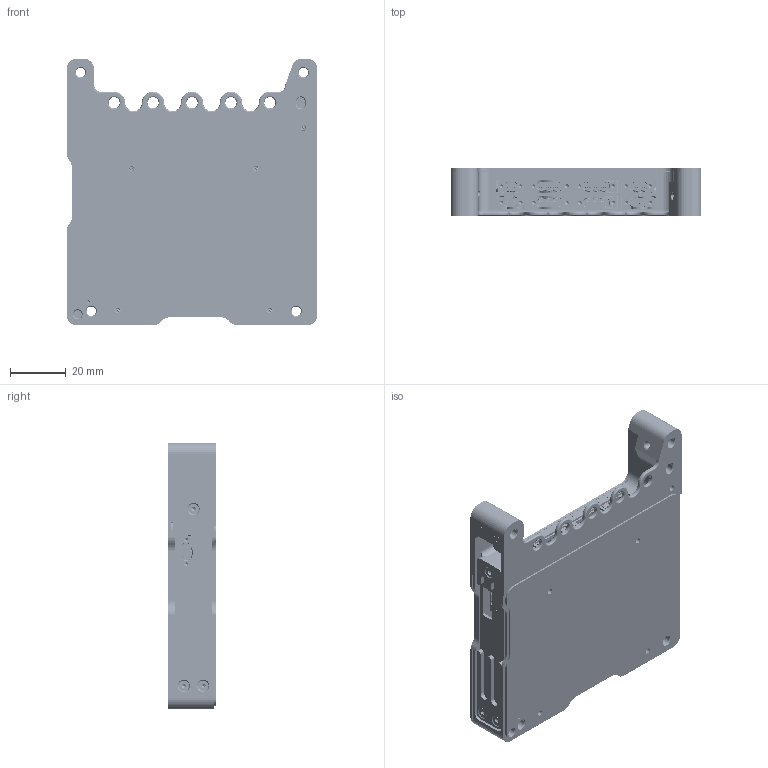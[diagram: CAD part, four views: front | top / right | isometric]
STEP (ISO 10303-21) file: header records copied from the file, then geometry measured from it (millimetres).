
FILE_DESCRIPTION (( 'STEP AP214' ), '1' );
FILE_NAME ('105603 External.STEP', '2024-01-26T15:26:45', ( '' ), ( '' ), 'SwSTEP 2.0', 'SolidWorks 2021', '' );
FILE_SCHEMA (( 'AUTOMOTIVE_DESIGN' ));
Length unit declared in the file: millimetre
Products named in the file (16): 104815_Threads; 104430_Marked; ST60-18P-X8ASHX88SU; Nano-D 25pin socket; 105601; 104611_HeliCoil-Plus-41300020005-Colly; 105603 External; 104722_Clean; Nano-D 15pin plug; 104674; ST60-10P-X8ASHX88SU; 104436; 104584_Detailed; 104459; Nano-D 9pin socket; Nano-D 15pin socket
Assembly tree (35 placements, depth 4):
  105603 External
    104674
      104430_Marked
        104436
        104611_HeliCoil-Plus-41300020005-Colly  x9
      104459
        Nano-D 15pin plug
        Nano-D 15pin socket  x2
        Nano-D 25pin socket  x4
        Nano-D 9pin socket  x2
        ST60-18P-X8ASHX88SU
        ST60-10P-X8ASHX88SU
      104722_Clean
      104584_Detailed  x4
      104815_Threads  x3
    104815_Threads  x2
    105601
Bounding box: 90.17 x 17.2 x 95.89 mm (x, y, z)
Volume: 31759.1 mm3; surface area: 51590.2 mm2
Topology: 32 solids, 49 shells, 8235 faces, 21969 edges, 14460 vertices
Faces by surface type: plane 4084, cylinder 1901, bspline 1304, cone 480, torus 466
Full cylindrical faces by diameter (mm): 0.254 x504, 0.305 x148, 0.457 x148, 0.498 x15, 0.5 x2, 0.572 x15, 0.7 x4, 1 x3, 1.191 x108, 1.6 x2, 1.75 x5, 2 x61, 2.1 x7, 2.4 x5, 2.5 x1, 3 x2, 3.4 x8, 3.8 x5, 4 x11, 6 x2, 20 x1
Entity records: 281153 total; most frequent: CARTESIAN_POINT 131638, ORIENTED_EDGE 27108, DIRECTION 22145, EDGE_CURVE 13554, VERTEX_POINT 9417, VECTOR 8737, LINE 8737, AXIS2_PLACEMENT_3D 6704
